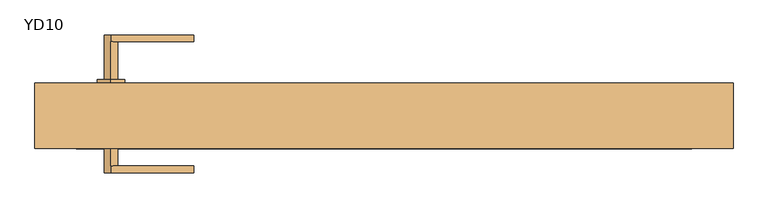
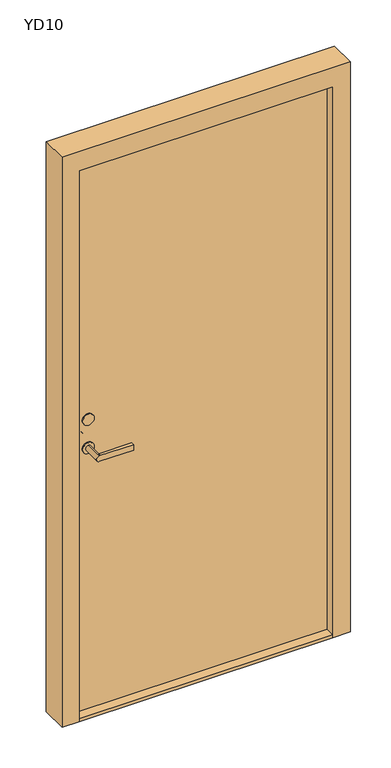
"""IFC4 building model written with IfcOpenShell, lengths in millimetres: door geometry, Enkeldörr : YD10."""

import ifcopenshell
import ifcopenshell.guid

model = None  # the IFC model being written
_history = None  # IfcOwnerHistory: only IFC2X3 demands one
_inside = {}  # id of a spatial element -> (the spatial element, [elements in it])
_under = {}  # id of a project, library or spatial element -> (it, [spatial elements below it])
_declared = {}  # id of a project -> (the project, [libraries it declares])
_typed = {}  # id of a type object -> (the type object, [elements of that type])
_made_of = {}  # id of a material, layer set ... -> (it, [elements and type objects made of it])


def new_model(schema):
    """Start an empty IFC model of exactly this schema.

    Asked for "IFC4X3", IfcOpenShell would pick the latest addendum, in which some entities
    have other attributes; the version numbers below select the first issue.
    IFC2X3 requires an IfcOwnerHistory on every rooted entity: one is made here for all.
    """
    global model, _history
    if schema == "IFC4X3":
        model = ifcopenshell.file(schema_version=(4, 3, 0, 0))
    else:
        model = ifcopenshell.file(schema=schema)
    _inside.clear()
    _under.clear()
    _declared.clear()
    _typed.clear()
    _made_of.clear()
    _history = None
    if model.schema == "IFC2X3":
        org = make("IfcOrganization", Name="unknown")
        user = make(
            "IfcPersonAndOrganization",
            ThePerson=make("IfcPerson", FamilyName="unknown"),
            TheOrganization=org,
        )
        app = make(
            "IfcApplication",
            ApplicationDeveloper=org,
            Version="unknown",
            ApplicationFullName="unknown",
            ApplicationIdentifier="unknown",
        )
        _history = make(
            "IfcOwnerHistory",
            OwningUser=user,
            OwningApplication=app,
            ChangeAction="ADDED",
            CreationDate=0,
        )
    return model


def make(cls, **values):
    """One entity of the class cls with the attributes given. An attribute that is None is left unset."""
    return model.create_entity(
        cls, **{name: value for name, value in values.items() if value is not None}
    )


def rooted(cls, **values):
    """An entity with a GlobalId (a new one), such as an element, a storey or a relation."""
    return make(cls, GlobalId=ifcopenshell.guid.new(), OwnerHistory=_history, **values)


def si_unit(unit_type, name, prefix=None):
    """IfcSIUnit, for example si_unit("LENGTHUNIT", "METRE", prefix="MILLI")."""
    return make("IfcSIUnit", UnitType=unit_type, Prefix=prefix, Name=name)


def assignment(units):
    """IfcUnitAssignment: the units of a project."""
    return None if units is None else make("IfcUnitAssignment", Units=units)


def point(xyz):
    """IfcCartesianPoint."""
    return None if xyz is None else make("IfcCartesianPoint", Coordinates=xyz)


def direction(xyz):
    """IfcDirection."""
    return None if xyz is None else make("IfcDirection", DirectionRatios=xyz)


def frame(location, z_axis=None, x_axis=None):
    """IfcAxis2Placement3D, a coordinate frame: its origin and axes. An axis left out is left unset."""
    return make(
        "IfcAxis2Placement3D",
        Location=point(location),
        Axis=direction(z_axis),
        RefDirection=direction(x_axis),
    )


def frame_2d(location, x_axis=None):
    """IfcAxis2Placement2D, a coordinate frame in the plane: its origin and x axis."""
    return make(
        "IfcAxis2Placement2D", Location=point(location), RefDirection=direction(x_axis)
    )


def origin():
    """The frame at (0, 0, 0) with its axes left unset."""
    return frame((0.0, 0.0, 0.0))


def origin_with_axes():
    """The frame at (0, 0, 0) with the z axis (0, 0, 1) and the x axis (1, 0, 0) written out."""
    return frame((0.0, 0.0, 0.0), z_axis=(0.0, 0.0, 1.0), x_axis=(1.0, 0.0, 0.0))


def place(relative_to, where):
    """IfcLocalPlacement: puts the frame where relative to a parent placement (None: the world)."""
    return make(
        "IfcLocalPlacement", PlacementRelTo=relative_to, RelativePlacement=where
    )


def context(
    kind, dimensions, precision=None, world=None, true_north=None, identifier=None
):
    """IfcGeometricRepresentationContext, for example the 3D "Model" context."""
    return make(
        "IfcGeometricRepresentationContext",
        ContextIdentifier=identifier,
        ContextType=kind,
        CoordinateSpaceDimension=dimensions,
        Precision=precision,
        WorldCoordinateSystem=world,
        TrueNorth=true_north,
    )


def project(units=None, contexts=None):
    """IfcProject with its units and contexts."""
    return rooted(
        "IfcProject",
        Name="project",
        RepresentationContexts=contexts,
        UnitsInContext=assignment(units),
    )


def spatial(cls, under=None, at=None, **own):
    """A site, building, storey or space (cls), placed at a placement, below another one or the project."""
    s = rooted(cls, ObjectPlacement=at, **own)
    if under is not None:
        _under.setdefault(under.id(), (under, []))[1].append(s)
    return s


def polyline(points):
    """IfcPolyline through the points."""
    return make("IfcPolyline", Points=[point(p) for p in points])


def circle_curve(where, radius):
    """IfcCircle in the frame where."""
    return make("IfcCircle", Position=where, Radius=radius)


def trimmed(basis, trim1, trim2, sense, master):
    """IfcTrimmedCurve: the piece of a basis curve between two trims."""
    return make(
        "IfcTrimmedCurve",
        BasisCurve=basis,
        Trim1=trim1,
        Trim2=trim2,
        SenseAgreement=sense,
        MasterRepresentation=master,
    )


def segment(curve, same_sense, transition):
    """IfcCompositeCurveSegment."""
    return make(
        "IfcCompositeCurveSegment",
        Transition=transition,
        SameSense=same_sense,
        ParentCurve=curve,
    )


def composite_curve(segments, self_intersect=None):
    """IfcCompositeCurve: segments joined end to end."""
    return make("IfcCompositeCurve", Segments=segments, SelfIntersect=self_intersect)


def outline(outer, holes=None, kind="AREA"):
    """IfcArbitraryClosedProfileDef: a profile drawn as a closed curve; with holes, ...WithVoids."""
    if holes is None:
        return make("IfcArbitraryClosedProfileDef", ProfileType=kind, OuterCurve=outer)
    return make(
        "IfcArbitraryProfileDefWithVoids",
        ProfileType=kind,
        OuterCurve=outer,
        InnerCurves=holes,
    )


def extrude(swept, where, along, depth):
    """IfcExtrudedAreaSolid: the profile swept, set in the frame where, extruded along a direction by depth."""
    return make(
        "IfcExtrudedAreaSolid",
        SweptArea=swept,
        Position=where,
        ExtrudedDirection=direction(along),
        Depth=depth,
    )


def shape(context_of_items, identifier, shape_type, items):
    """IfcShapeRepresentation: the items that make up one representation, for example the "Body"."""
    return make(
        "IfcShapeRepresentation",
        ContextOfItems=context_of_items,
        RepresentationIdentifier=identifier,
        RepresentationType=shape_type,
        Items=items,
    )


def source(mapping_origin, context_of_items, identifier, shape_type, items):
    """IfcRepresentationMap: a shape defined once, which mapped items show again and again."""
    return make(
        "IfcRepresentationMap",
        MappingOrigin=mapping_origin,
        MappedRepresentation=shape(context_of_items, identifier, shape_type, items),
    )


def transform(
    local_origin,
    x_axis=None,
    y_axis=None,
    z_axis=None,
    scale=None,
    scale2=None,
    scale3=None,
    uniform=True,
):
    """IfcCartesianTransformationOperator3D, or its non-uniform kind. x_axis, y_axis, z_axis: its Axis1, 2, 3."""
    if uniform:
        return make(
            "IfcCartesianTransformationOperator3D",
            Axis1=direction(x_axis),
            Axis2=direction(y_axis),
            LocalOrigin=point(local_origin),
            Scale=scale,
            Axis3=direction(z_axis),
        )
    return make(
        "IfcCartesianTransformationOperator3DnonUniform",
        Axis1=direction(x_axis),
        Axis2=direction(y_axis),
        LocalOrigin=point(local_origin),
        Scale=scale,
        Axis3=direction(z_axis),
        Scale2=scale2,
        Scale3=scale3,
    )


def mapped(mapping_source, mapping_target):
    """IfcMappedItem: shows the shape of a source again, moved by a transform."""
    return make(
        "IfcMappedItem", MappingSource=mapping_source, MappingTarget=mapping_target
    )


def made_of(thing, what):
    """Note that an element or type object is made of a material, layer set ...; save() writes the relation."""
    if what is not None:
        _made_of.setdefault(what.id(), (what, []))[1].append(thing)
    return thing


def element(
    cls,
    number,
    at=None,
    inside=None,
    cuts=None,
    type_object=None,
    material=None,
    context=None,
    identifier="Body",
    shape_type=None,
    held_by="IfcProductDefinitionShape",
    body=None,
    shapes=None,
    **own,
):
    """One element of the class cls, such as IfcWall. Its Tag is "e" and its number.

    at: its placement. inside: the storey or other place that contains it. cuts: it is an
    opening in that element (IfcRelVoidsElement). A single representation is given by context,
    identifier, shape_type and body (its items); several are given by shapes. held_by: the class
    of the entity that holds the representations. save() writes the other relations.
    """
    e = rooted(cls, Tag="e%d" % number, ObjectPlacement=at, **own)
    if body is not None:
        shapes = [shape(context, identifier, shape_type, body)]
    if shapes is not None:
        e.Representation = make(held_by, Representations=shapes)
    if inside is not None:
        _inside.setdefault(inside.id(), (inside, []))[1].append(e)
    if cuts is not None:
        rooted(
            "IfcRelVoidsElement", RelatingBuildingElement=cuts, RelatedOpeningElement=e
        )
    if type_object is not None:
        _typed.setdefault(type_object.id(), (type_object, []))[1].append(e)
    return made_of(e, material)


def aggregate(whole, parts):
    """IfcRelAggregates: a whole, such as a stair, and the parts it consists of."""
    return rooted("IfcRelAggregates", RelatingObject=whole, RelatedObjects=parts)


def save(model, path):
    """Write the relations noted so far, then the file.

    IfcRelAggregates (storeys below a building ...), IfcRelContainedInSpatialStructure (elements
    in a storey), IfcRelDefinesByType, IfcRelAssociatesMaterial and IfcRelDeclares: one each for
    every whole, place, type object, material and project.
    """
    for whole, parts in _under.values():
        aggregate(whole, parts)
    for where, things in _inside.values():
        rooted(
            "IfcRelContainedInSpatialStructure",
            RelatedElements=things,
            RelatingStructure=where,
        )
    for kind, things in _typed.values():
        rooted("IfcRelDefinesByType", RelatedObjects=things, RelatingType=kind)
    for what, things in _made_of.values():
        rooted("IfcRelAssociatesMaterial", RelatedObjects=things, RelatingMaterial=what)
    for by, libraries in _declared.values():
        rooted("IfcRelDeclares", RelatingContext=by, RelatedDefinitions=libraries)
    model.write(path)


def plane_surface(at):
    """IfcPlane: the flat surface through the origin of the frame at, square to its z axis."""
    return make("IfcPlane", Position=at)


def cylinder_surface(at, radius):
    """IfcCylindricalSurface: all points at the distance radius from the z axis of the frame at."""
    return make("IfcCylindricalSurface", Position=at, Radius=radius)


def advanced_brep(points, edges, surfaces, faces):
    """IfcAdvancedBrep: a solid bounded by faces that lie on surfaces and meet in shared edges.

    An edge is (start, end): straight between two places in points (the first is 0);
    or (start, end, curve); or (start, end, curve, False) where it runs against its curve.
    A face is (place in surfaces, loops), or (place, loops, False) where it looks against
    its surface's normal. A loop lists edges by number (the first is 1), with a minus sign
    where the edge is run from its end to its start. The first loop is the outer one.
    """
    corners = [point(p) for p in points]
    vertices = [make("IfcVertexPoint", VertexGeometry=c) for c in corners]
    made = []
    for start, end, *more in edges:
        made.append(
            make(
                "IfcEdgeCurve",
                EdgeStart=vertices[start],
                EdgeEnd=vertices[end],
                EdgeGeometry=more[0] if more else make("IfcPolyline", Points=[corners[start], corners[end]]),
                SameSense=more[1] if len(more) > 1 else True,
            )
        )
    hull = []
    for where, loops, *sense in faces:
        bounds = []
        for j, loop in enumerate(loops):
            ring = [make("IfcOrientedEdge", EdgeElement=made[abs(k) - 1], Orientation=k > 0) for k in loop]
            bounds.append(
                make(
                    "IfcFaceOuterBound" if j == 0 else "IfcFaceBound",
                    Bound=make("IfcEdgeLoop", EdgeList=ring),
                    Orientation=True,
                )
            )
        hull.append(make("IfcAdvancedFace", Bounds=bounds, FaceSurface=surfaces[where], SameSense=sense[0] if sense else True))
    return make("IfcAdvancedBrep", Outer=make("IfcClosedShell", CfsFaces=hull))


def yd10_129f10a2(model_context):
    return source(origin(), model_context, "Body", "SolidModel", [
        extrude(outline(polyline([(445.0, 90.0), (-445.0, 90.0), (-445.0, 150.0), (445.0, 150.0), (445.0, 90.0)])), frame((0.0, 0.0, 10.0), z_axis=(0.0, 0.0, 1.0), x_axis=(1.0, 0.0, 0.0)), (0.0, 0.0, 1.0), 2030.0),
        advanced_brep(
        [(-395.0, 85.0, 967.5), (-395.0, 85.0, 987.5), (-395.0, 30.0, 987.5), (-395.0, 30.0, 967.5), (-395.0, 20.0, 967.5), (-395.0, 20.0, 987.5), (-275.0, 30.0, 987.5), (-275.0, 30.0, 967.5), (-275.0, 20.0, 967.5), (-275.0, 20.0, 987.5)],
        [
            (0, 1, circle_curve(frame((-395.0, 85.0, 977.5), z_axis=(0.0, 1.0, 0.0), x_axis=(0.0, 0.0, 1.0)), 10.0)),
            (1, 0, circle_curve(frame((-395.0, 85.0, 977.5), z_axis=(0.0, 1.0, 0.0), x_axis=(0.0, 0.0, 1.0)), 10.0)),
            (1, 2),
            (2, 3, circle_curve(frame((-395.0, 30.0, 977.5), z_axis=(0.0, 1.0, 0.0), x_axis=(0.0, 0.0, 1.0)), 10.0)),
            (3, 0),
            (3, 4),
            (4, 5, circle_curve(frame((-395.0, 20.0, 977.5), z_axis=(0.0, 1.0, 0.0), x_axis=(0.0, 0.0, 1.0)), 10.0)),
            (5, 2),
            (2, 6),
            (6, 7),
            (7, 3),
            (7, 8),
            (8, 4),
            (6, 9),
            (9, 8),
            (5, 9),
        ],
        [
            plane_surface(frame((-395.0, 85.0, 987.5), z_axis=(0.0, 1.0, 0.0), x_axis=(-1.0, 0.0, 0.0))),
            cylinder_surface(frame((-395.0, 20.0, 977.5), z_axis=(0.0, 1.0, 0.0), x_axis=(0.0, 0.0, 1.0)), 10.0),
            plane_surface(frame((-395.0, 30.0, 967.5), z_axis=(0.0, 1.0, 0.0), x_axis=(1.0, 0.0, 0.0))),
            plane_surface(frame((-395.0, 30.0, 967.5), z_axis=(0.0, 0.0, -1.0), x_axis=(0.0, -1.0, 0.0))),
            plane_surface(frame((-275.0, 30.0, 967.5), z_axis=(1.0, 0.0, 0.0), x_axis=(0.0, -1.0, 0.0))),
            plane_surface(frame((-275.0, 30.0, 987.5), z_axis=(0.0, 0.0, 1.0), x_axis=(0.0, -1.0, 0.0))),
            plane_surface(frame((-395.0, 20.0, 967.5), z_axis=(0.0, -1.0, 0.0), x_axis=(-1.0, 0.0, 0.0))),
        ],
        [
            (0, [[1, 2]]),
            (1, [[3, 4, 5, -2]]),
            (1, [[-5, 6, 7, 8, -3, -1]]),
            (2, [[-4, 9, 10, 11]]),
            (3, [[12, 13, -6, -11]]),
            (4, [[14, 15, -12, -10]]),
            (5, [[-8, 16, -14, -9]]),
            (6, [[-7, -13, -15, -16]]),
        ],
    ),
        advanced_brep(
        [(-395.0, 155.0, 967.5), (-395.0, 155.0, 987.5), (-395.0, 210.0, 967.5), (-395.0, 210.0, 987.5), (-395.0, 220.0, 967.5), (-395.0, 220.0, 987.5), (-275.0, 210.0, 967.5), (-275.0, 210.0, 987.5), (-275.0, 220.0, 967.5), (-275.0, 220.0, 987.5)],
        [
            (0, 1, circle_curve(frame((-395.0, 155.0, 977.5), z_axis=(0.0, -1.0, 0.0), x_axis=(0.0, 0.0, 1.0)), 10.0)),
            (1, 0, circle_curve(frame((-395.0, 155.0, 977.5), z_axis=(0.0, -1.0, 0.0), x_axis=(0.0, 0.0, 1.0)), 10.0)),
            (0, 2),
            (2, 3, circle_curve(frame((-395.0, 210.0, 977.5), z_axis=(0.0, -1.0, 0.0), x_axis=(0.0, 0.0, 1.0)), 10.0)),
            (3, 1),
            (4, 2),
            (3, 5),
            (5, 4, circle_curve(frame((-395.0, 220.0, 977.5), z_axis=(0.0, -1.0, 0.0), x_axis=(0.0, 0.0, 1.0)), 10.0)),
            (2, 6),
            (6, 7),
            (7, 3),
            (8, 6),
            (4, 8),
            (9, 7),
            (8, 9),
            (9, 5),
        ],
        [
            plane_surface(frame((-395.0, 155.0, 987.5), z_axis=(0.0, -1.0, 0.0), x_axis=(1.0, 0.0, 0.0))),
            cylinder_surface(frame((-395.0, 155.0, 977.5), z_axis=(0.0, 1.0, 0.0), x_axis=(0.0, 0.0, 1.0)), 10.0),
            plane_surface(frame((-395.0, 210.0, 967.5), z_axis=(0.0, -1.0, 0.0), x_axis=(-1.0, 0.0, 0.0))),
            plane_surface(frame((-395.0, 220.0, 967.5), z_axis=(0.0, 0.0, -1.0), x_axis=(0.0, -1.0, 0.0))),
            plane_surface(frame((-275.0, 220.0, 967.5), z_axis=(1.0, 0.0, 0.0), x_axis=(0.0, -1.0, 0.0))),
            plane_surface(frame((-275.0, 220.0, 987.5), z_axis=(0.0, 0.0, 1.0), x_axis=(0.0, -1.0, 0.0))),
            plane_surface(frame((-395.0, 220.0, 967.5), z_axis=(0.0, 1.0, 0.0), x_axis=(1.0, 0.0, 0.0))),
        ],
        [
            (0, [[1, 2]]),
            (1, [[3, 4, 5, -1]]),
            (1, [[6, -3, -2, -5, 7, 8]]),
            (2, [[-4, 9, 10, 11]]),
            (3, [[12, -9, -6, 13]]),
            (4, [[14, -10, -12, 15]]),
            (5, [[-7, -11, -14, 16]]),
            (6, [[-8, -16, -15, -13]]),
        ],
    ),
        extrude(outline(composite_curve([segment(trimmed(circle_curve(frame_2d((977.5, -395.0)), 20.0), [point((957.5, -395.0))], [point((997.5, -395.0))], False, "CARTESIAN"), True, "CONTINUOUS"), segment(trimmed(circle_curve(frame_2d((977.5, -395.0)), 20.0), [point((997.5, -395.0))], [point((957.5, -395.0))], False, "CARTESIAN"), True, "CONTINUOUS")], self_intersect=False)), frame((0.0, 85.0, 0.0), z_axis=(0.0, 1.0, 0.0), x_axis=(0.0, 0.0, 1.0)), (0.0, 0.0, 1.0), 5.0),
        extrude(outline(composite_curve([segment(trimmed(circle_curve(frame_2d((1082.5, -395.0)), 20.0), [point((1062.5, -395.0))], [point((1102.5, -395.0))], False, "CARTESIAN"), True, "CONTINUOUS"), segment(trimmed(circle_curve(frame_2d((1082.5, -395.0)), 20.0), [point((1102.5, -395.0))], [point((1062.5, -395.0))], False, "CARTESIAN"), True, "CONTINUOUS")], self_intersect=False)), frame((0.0, 85.0, 0.0), z_axis=(0.0, 1.0, 0.0), x_axis=(0.0, 0.0, 1.0)), (0.0, 0.0, 1.0), 5.0),
        extrude(outline(composite_curve([segment(trimmed(circle_curve(frame_2d((977.5, -395.0)), 20.0), [point((957.5, -395.0))], [point((997.5, -395.0))], False, "CARTESIAN"), True, "CONTINUOUS"), segment(trimmed(circle_curve(frame_2d((977.5, -395.0)), 20.0), [point((997.5, -395.0))], [point((957.5, -395.0))], False, "CARTESIAN"), True, "CONTINUOUS")], self_intersect=False)), frame((0.0, 150.0, 0.0), z_axis=(0.0, 1.0, 0.0), x_axis=(0.0, 0.0, 1.0)), (0.0, 0.0, 1.0), 5.0),
        extrude(outline(composite_curve([segment(trimmed(circle_curve(frame_2d((1082.5, -395.0)), 20.0), [point((1062.5, -395.0))], [point((1102.5, -395.0))], False, "CARTESIAN"), True, "CONTINUOUS"), segment(trimmed(circle_curve(frame_2d((1082.5, -395.0)), 20.0), [point((1102.5, -395.0))], [point((1062.5, -395.0))], False, "CARTESIAN"), True, "CONTINUOUS")], self_intersect=False)), frame((0.0, 150.0, 0.0), z_axis=(0.0, 1.0, 0.0), x_axis=(0.0, 0.0, 1.0)), (0.0, 0.0, 1.0), 5.0),
        extrude(outline(polyline([(2110.0, 505.0), (2110.0, -505.0), (0.0, -505.0), (0.0, -445.0), (2040.0, -445.0), (2040.0, 445.0), (0.0, 445.0), (0.0, 505.0), (2110.0, 505.0)])), frame((0.0, 55.0, 0.0), z_axis=(0.0, 1.0, 0.0), x_axis=(0.0, 0.0, 1.0)), (0.0, 0.0, 1.0), 95.0),
        extrude(outline(polyline([(-445.0, 55.0), (-445.0, 150.0), (445.0, 150.0), (445.0, 55.0), (-445.0, 55.0)])), origin_with_axes(), (0.0, 0.0, 1.0), 10.0),
    ])


if __name__ == "__main__":
    model = new_model("IFC4")
    model_context = context("Model", 3, world=origin())
    ifc_project = project(units=[si_unit("LENGTHUNIT", "METRE", prefix="MILLI")], contexts=[model_context])
    site = spatial("IfcSite", under=ifc_project)
    building = spatial("IfcBuilding", under=site)
    placement = place(None, origin())
    yd10_shape = yd10_129f10a2(model_context)
    element("IfcDoor", 1, ObjectType="Enkeldörr : YD10", at=placement, inside=building, context=model_context, shape_type="MappedRepresentation", body=[
        mapped(yd10_shape, transform((0.0, 0.0, 0.0), x_axis=(1.0, 0.0, 0.0), y_axis=(0.0, 1.0, 0.0), z_axis=(0.0, 0.0, 1.0))),
    ])
    save(model, "model.ifc")
